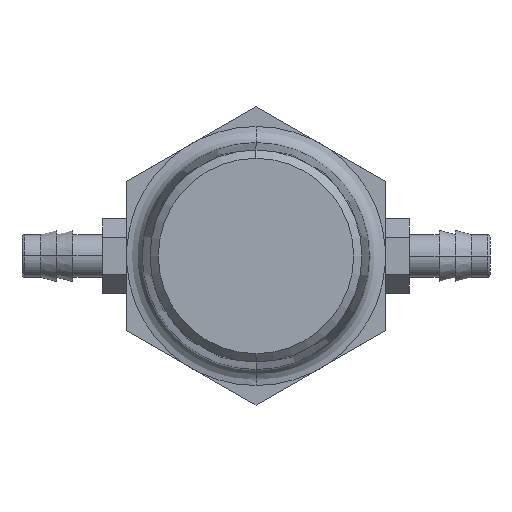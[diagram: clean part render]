
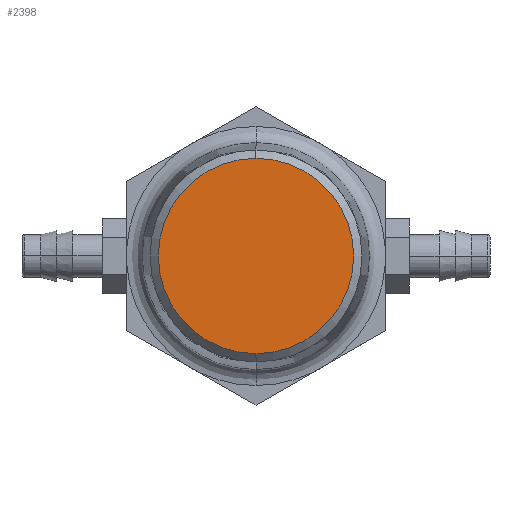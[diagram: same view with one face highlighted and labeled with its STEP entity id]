
A CAD part, left-side view. The second image highlights one B-rep face of the part: STEP entity #2398.
In plain terms, the highlighted planar face has unit normal (-1, 0, 0).
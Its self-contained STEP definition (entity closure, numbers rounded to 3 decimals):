
#1844=CARTESIAN_POINT('',(-3.495,0.0,0.378));
#1845=VERTEX_POINT('',#1844);
#1854=CARTESIAN_POINT('',(-3.495,0.,-0.378));
#1855=VERTEX_POINT('',#1854);
#1856=CARTESIAN_POINT('',(-3.495,0.0,0.0));
#1857=DIRECTION('',(-1.0,0.0,0.0));
#1858=DIRECTION('',(0.0,0.0,1.0));
#1859=AXIS2_PLACEMENT_3D('',#1856,#1857,#1858);
#1860=CIRCLE('',#1859,0.378);
#1861=EDGE_CURVE('',#1855,#1845,#1860,.T.);
#2379=CARTESIAN_POINT('',(-3.495,0.0,0.0));
#2380=DIRECTION('',(-1.0,0.0,0.0));
#2381=DIRECTION('',(0.0,0.0,1.0));
#2382=AXIS2_PLACEMENT_3D('',#2379,#2380,#2381);
#2383=CIRCLE('',#2382,0.378);
#2384=EDGE_CURVE('',#1845,#1855,#2383,.T.);
#2389=CARTESIAN_POINT('',(-3.495,0.0,0.189));
#2390=DIRECTION('',(-1.0,0.0,0.0));
#2391=DIRECTION('',(0.0,0.0,1.0));
#2392=AXIS2_PLACEMENT_3D('',#2389,#2390,#2391);
#2393=PLANE('',#2392);
#2394=ORIENTED_EDGE('',*,*,#2384,.T.);
#2395=ORIENTED_EDGE('',*,*,#1861,.T.);
#2396=EDGE_LOOP('',(#2394,#2395));
#2397=FACE_OUTER_BOUND('',#2396,.T.);
#2398=ADVANCED_FACE('',(#2397),#2393,.T.);
